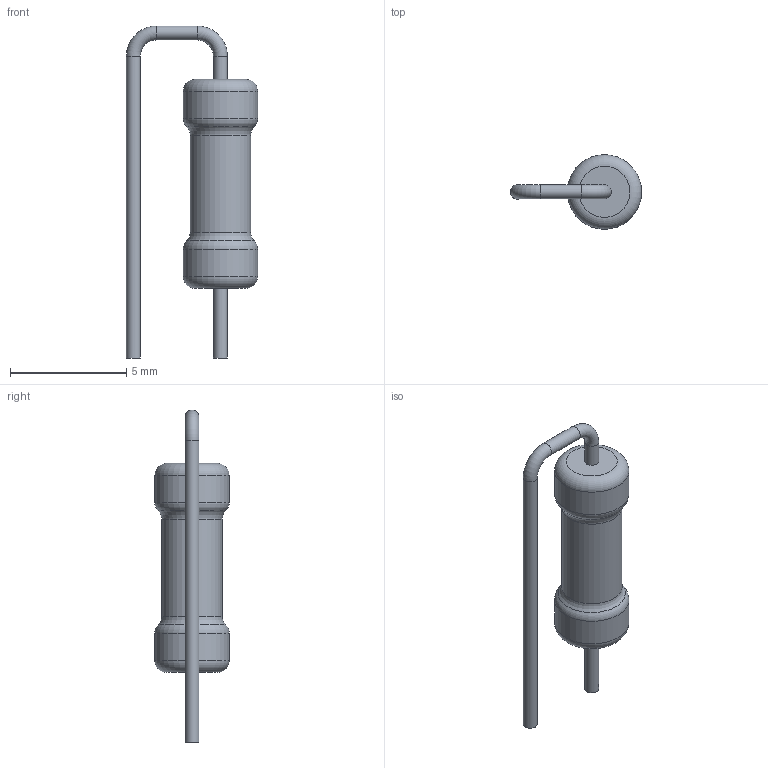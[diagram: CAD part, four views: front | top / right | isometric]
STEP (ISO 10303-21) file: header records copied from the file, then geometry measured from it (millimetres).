
FILE_DESCRIPTION(('STEP AP203'), '1');
FILE_NAME('栖闉罻', '', ('UNSPECIFIED'), ('UNSPECIFIED'), 'ASCON STEP Converter 1.6', 'ASCON Math Kernel', '');
FILE_SCHEMA(('CONFIG_CONTROL_DESIGN'));
Length unit declared in the file: millimetre
Assembly tree (1 placements, depth 2):
  (unnamed)
    (unnamed)
Bounding box: 5.65 x 3.2 x 14.3 mm (x, y, z)
Volume: 64.1 mm3; surface area: 135.5 mm2
Topology: 1 solids, 1 shells, 19 faces, 33 edges, 18 vertices
Faces by surface type: torus 8, cylinder 7, plane 4
Full cylindrical faces by diameter (mm): 0.6 x4, 2.6 x1, 3.2 x2
Entity records: 620 total; most frequent: DIRECTION 78, CARTESIAN_POINT 57, AXIS2_PLACEMENT_3D 39, EDGE_LOOP 36, ORIENTED_EDGE 36, FACE_OUTER_BOUND 30, COLOUR_RGB 20, FILL_AREA_STYLE_COLOUR 20
